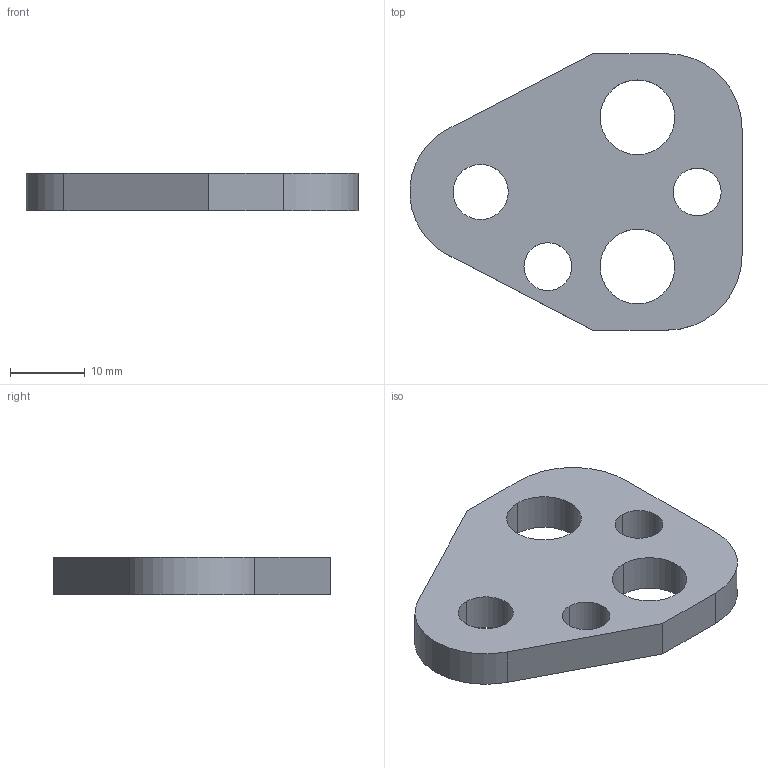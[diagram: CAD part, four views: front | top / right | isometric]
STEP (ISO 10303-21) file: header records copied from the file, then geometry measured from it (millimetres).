
FILE_DESCRIPTION(/* description */ (''),/* implementation_level */ '2;1');
FILE_NAME(/* name */ '3d_bdc10_03362_r00.stp',/* time_stamp */ '2011-01-10T14:17:25+09:00',/* author */ ('MISUMI'),/* organization */ (''),/* preprocessor_version */ 'ST-DEVELOPER v11',/* originating_system */ 'UGS - NX 5.0',/* authorisation */ '');
FILE_SCHEMA (('CONFIG_CONTROL_DESIGN'));
Length unit declared in the file: millimetre
Products named in the file (1): 3d_bdc10_03362_r00
Bounding box: 44.47 x 37 x 5 mm (x, y, z)
Volume: 5080.8 mm3; surface area: 3327.9 mm2
Topology: 1 solids, 1 shells, 20 faces, 54 edges, 36 vertices
Faces by surface type: cylinder 13, plane 7
Entity records: 750 total; most frequent: DIRECTION 122, CARTESIAN_POINT 111, ORIENTED_EDGE 108, EDGE_CURVE 54, AXIS2_PLACEMENT_3D 47, VERTEX_POINT 36, EDGE_LOOP 30, LINE 28
